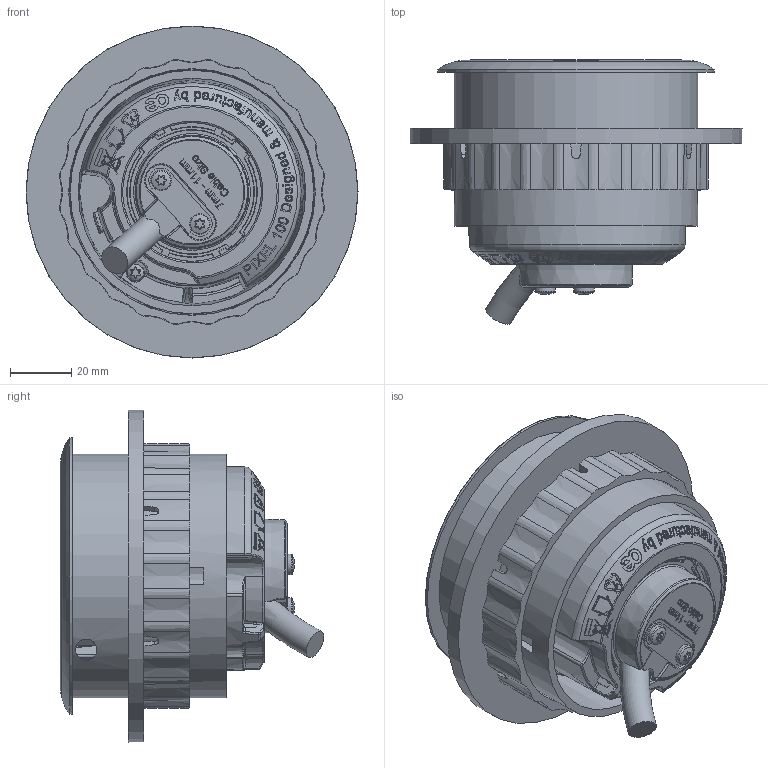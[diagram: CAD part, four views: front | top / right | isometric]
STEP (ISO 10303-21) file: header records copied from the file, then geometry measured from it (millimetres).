
FILE_DESCRIPTION(/* description */ (''),/* implementation_level */ '2;1');
FILE_NAME(/* name */ 'Pixel_100W_BLOCK.step',/* time_stamp */ '2025-11-21T09:32:19Z',/* author */ (''),/* organization */ (''),/* preprocessor_version */ 'ST-DEVELOPER v20.1',/* originating_system */ 'Autodesk Translation Framework v14.21.0.0',/* authorisation */ '');
FILE_SCHEMA (('AUTOMOTIVE_DESIGN { 1 0 10303 214 3 1 1 }'));
Length unit declared in the file: millimetre
Products named in the file (1): Pixel_100W_2
Bounding box: 108 x 85.87 x 108 mm (x, y, z)
Volume: 319033.8 mm3; surface area: 80924.6 mm2
Topology: 3 solids, 8 shells, 4006 faces, 10871 edges, 6962 vertices
Faces by surface type: plane 1717, bspline 1034, cylinder 787, cone 214, torus 190, sphere 64
Full cylindrical faces by diameter (mm): 0.445 x1, 0.7 x4, 0.766 x1, 5.6 x1, 6.7 x2, 7 x3, 79.2 x2
Entity records: 165040 total; most frequent: CARTESIAN_POINT 69213, ORIENTED_EDGE 21668, DIRECTION 17929, EDGE_CURVE 10834, VERTEX_POINT 6962, AXIS2_PLACEMENT_3D 6319, LINE 5291, VECTOR 5291
